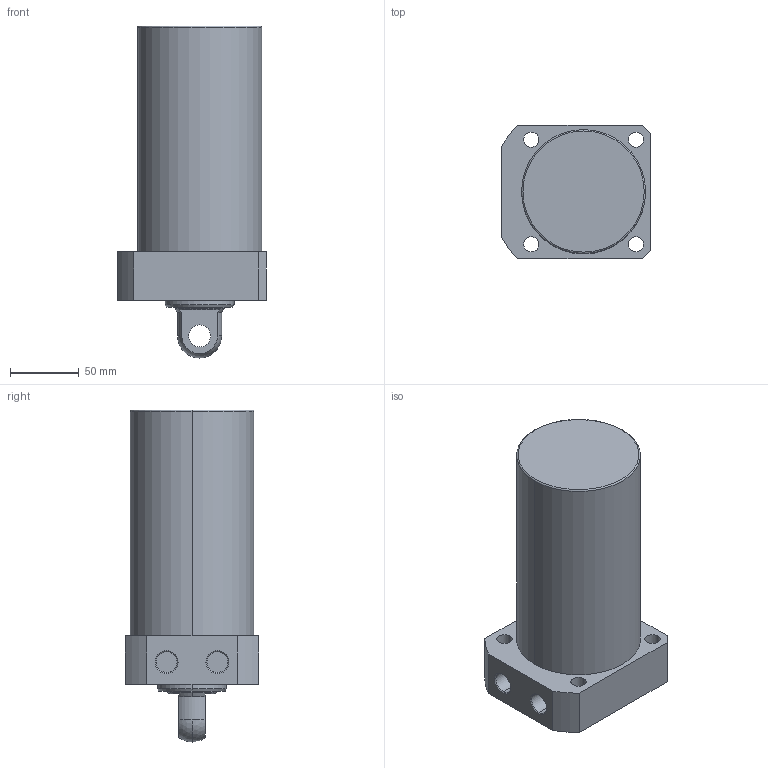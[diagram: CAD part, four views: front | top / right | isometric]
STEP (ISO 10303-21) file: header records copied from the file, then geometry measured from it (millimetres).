
FILE_DESCRIPTION (( 'STEP AP203' ), '1' );
FILE_NAME ('CLLR-090CP-120.STEP', '2019-12-18T06:56:39', ( '' ), ( '' ), 'SwSTEP 2.0', 'SolidWorks 2015', '' );
FILE_SCHEMA (( 'CONFIG_CONTROL_DESIGN' ));
Length unit declared in the file: millimetre
Products named in the file (1): CLLR-090CP-120
Bounding box: 108 x 97 x 241 mm (x, y, z)
Volume: 1407493.3 mm3; surface area: 90435.6 mm2
Topology: 1 solids, 1 shells, 59 faces, 139 edges, 89 vertices
Faces by surface type: cylinder 29, plane 18, cone 8, sphere 2, torus 2
Entity records: 1822 total; most frequent: DIRECTION 331, CARTESIAN_POINT 300, ORIENTED_EDGE 278, EDGE_CURVE 139, AXIS2_PLACEMENT_3D 136, VERTEX_POINT 89, EDGE_LOOP 76, CIRCLE 76
